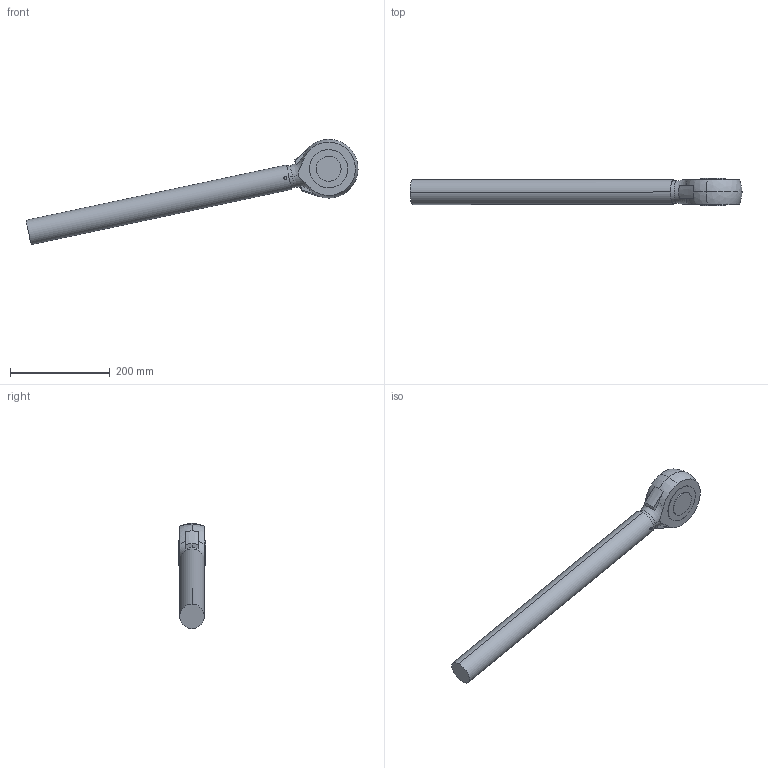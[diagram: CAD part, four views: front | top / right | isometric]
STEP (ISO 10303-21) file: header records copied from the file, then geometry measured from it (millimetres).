
FILE_DESCRIPTION (( 'STEP AP214' ), '1' );
FILE_NAME ('IRB6700-SW6_145-320_IRC5_rev04_ROD_CAD.STEP', '2021-07-08T09:27:01', ( '' ), ( '' ), 'SwSTEP 2.0', 'SolidWorks 2020', '' );
FILE_SCHEMA (( 'AUTOMOTIVE_DESIGN' ));
Length unit declared in the file: millimetre
Products named in the file (1): IRB6700-SW6_145-320_IRC5_rev04_ROD_CAD
Bounding box: 667.24 x 55 x 211.35 mm (x, y, z)
Volume: 1624288.2 mm3; surface area: 126437.6 mm2
Topology: 1 solids, 1 shells, 40 faces, 94 edges, 59 vertices
Faces by surface type: plane 16, cylinder 13, sphere 6, cone 3, torus 2
Entity records: 1988 total; most frequent: CARTESIAN_POINT 965, DIRECTION 200, ORIENTED_EDGE 182, AXIS2_PLACEMENT_3D 91, EDGE_CURVE 91, VERTEX_POINT 58, CIRCLE 50, EDGE_LOOP 45
